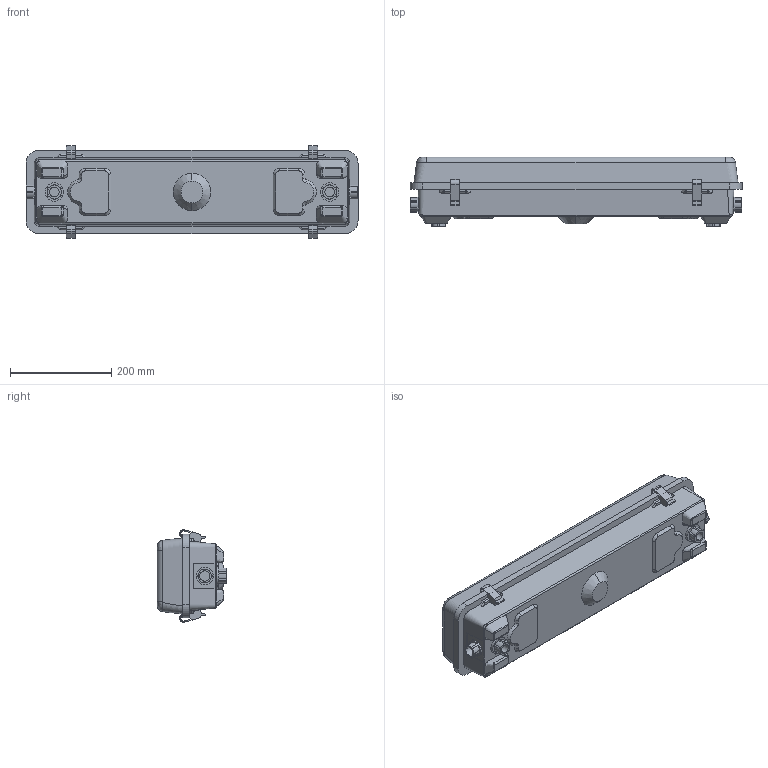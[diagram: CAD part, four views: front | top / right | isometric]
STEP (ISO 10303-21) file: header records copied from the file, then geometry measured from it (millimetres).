
FILE_DESCRIPTION (( 'STEP AP214' ), '1' );
FILE_NAME ('HALP-24-2L-LED-PND.STEP', '2015-03-13T13:58:58', ( '' ), ( '' ), 'SwSTEP 2.0', 'SolidWorks 2015', '' );
FILE_SCHEMA (( 'AUTOMOTIVE_DESIGN' ));
Length unit declared in the file: inch
Products named in the file (3): HALP-24-2L-LED-PND; smallPendantMount; Part1_1
Assembly tree (3 placements, depth 2):
  HALP-24-2L-LED-PND
    Part1_1
    smallPendantMount  x2
Bounding box: 657.23 x 137.79 x 184.01 mm (x, y, z)
Volume: 10524320 mm3; surface area: 409565.4 mm2
Topology: 3 solids, 3 shells, 342 faces, 1004 edges, 673 vertices
Faces by surface type: plane 153, cylinder 114, bspline 58, cone 17
Entity records: 28432 total; most frequent: CARTESIAN_POINT 15925, ORIENTED_EDGE 1894, DIRECTION 1523, EDGE_CURVE 947, VERTEX_POINT 635, VECTOR 515, LINE 515, AXIS2_PLACEMENT_3D 504
